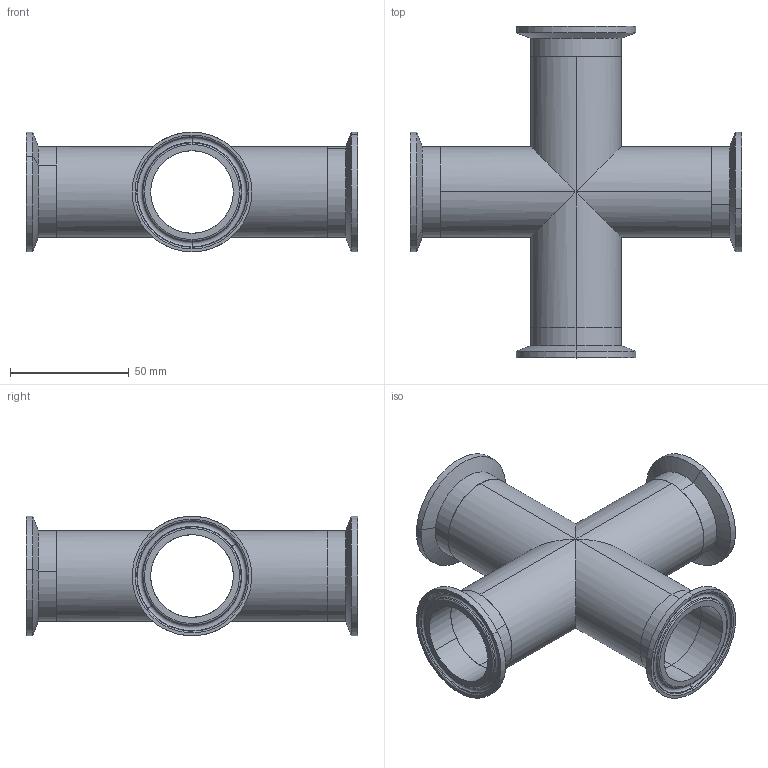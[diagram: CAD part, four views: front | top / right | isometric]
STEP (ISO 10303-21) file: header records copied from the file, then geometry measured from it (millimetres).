
FILE_DESCRIPTION (( 'STEP AP203' ), '1' );
FILE_NAME ('EG9 1.5.STEP', '2021-10-25T16:05:45', ( '' ), ( '' ), 'SwSTEP 2.0', 'SolidWorks 2021', '' );
FILE_SCHEMA (( 'CONFIG_CONTROL_DESIGN' ));
Length unit declared in the file: inch
Products named in the file (3): EG2CS1.5; EG9 1.5; V9W1.5
Assembly tree (5 placements, depth 2):
  EG9 1.5
    V9W1.5
    EG2CS1.5  x4
Bounding box: 139.7 x 139.7 x 50.39 mm (x, y, z)
Volume: 55488.8 mm3; surface area: 62867.5 mm2
Topology: 5 solids, 5 shells, 104 faces, 208 edges, 116 vertices
Faces by surface type: cylinder 40, torus 24, cone 24, plane 16
Entity records: 1469 total; most frequent: DIRECTION 218, CARTESIAN_POINT 199, ORIENTED_EDGE 164, AXIS2_PLACEMENT_3D 95, EDGE_CURVE 82, EDGE_LOOP 48, CIRCLE 46, VERTEX_POINT 44
